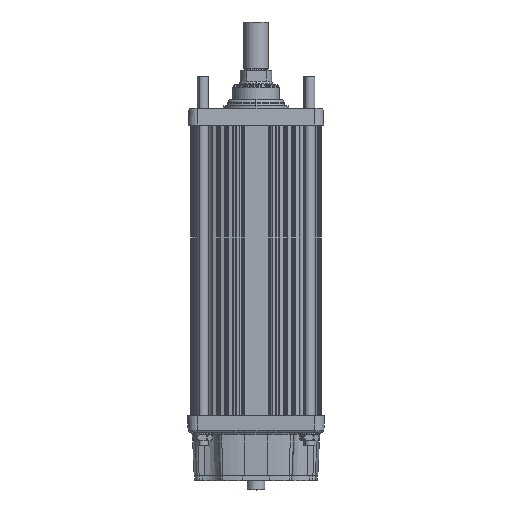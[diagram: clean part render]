
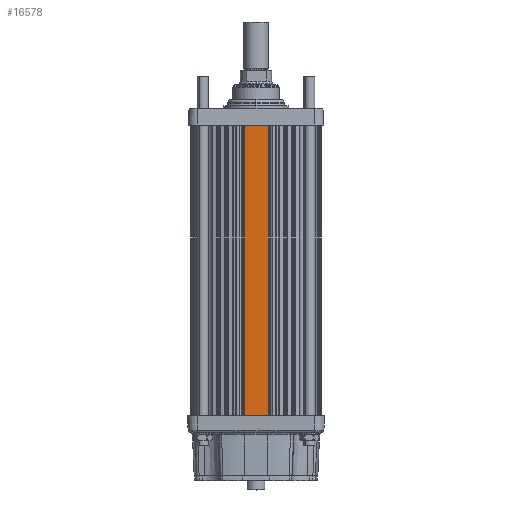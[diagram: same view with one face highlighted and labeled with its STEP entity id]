
A CAD part, front view. The second image highlights one B-rep face of the part: STEP entity #16578.
In plain terms, the highlighted planar face has unit normal (0, -1, 0) as drawn and (-1, 0, 0) by its records, which use the part's own axes.
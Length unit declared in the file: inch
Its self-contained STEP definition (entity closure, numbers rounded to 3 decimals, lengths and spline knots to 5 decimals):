
#16577 = EDGE_LOOP ( 'NONE', ( #16588, #16618, #16590, #16595 ) ) ;
#16578 = ADVANCED_FACE ( 'NONE', ( #33719 ), #33718, .T. ) ;
#16580 = EDGE_CURVE ( 'NONE', #16589, #16651, #33713, .T. ) ;
#16586 = EDGE_CURVE ( 'NONE', #16645, #16589, #33703, .T. ) ;
#16588 = ORIENTED_EDGE ( 'NONE', *, *, #16580, .F. ) ;
#16589 = VERTEX_POINT ( 'NONE', #33764 ) ;
#16590 = ORIENTED_EDGE ( 'NONE', *, *, #16591, .T. ) ;
#16591 = EDGE_CURVE ( 'NONE', #16645, #16653, #33763, .T. ) ;
#16595 = ORIENTED_EDGE ( 'NONE', *, *, #16655, .T. ) ;
#16618 = ORIENTED_EDGE ( 'NONE', *, *, #16586, .F. ) ;
#16645 = VERTEX_POINT ( 'NONE', #33842 ) ;
#16651 = VERTEX_POINT ( 'NONE', #33832 ) ;
#16653 = VERTEX_POINT ( 'NONE', #33831 ) ;
#16655 = EDGE_CURVE ( 'NONE', #16653, #16651, #33917, .T. ) ;
#33701 = VECTOR ( 'NONE', #33765, 39.37008 ) ;
#33702 = CARTESIAN_POINT ( 'NONE',  ( -3.365, 0.59323, -14.97 ) ) ;
#33703 = LINE ( 'NONE', #33702, #33701 ) ;
#33710 = DIRECTION ( 'NONE',  ( 0., -1., 0. ) ) ;
#33711 = VECTOR ( 'NONE', #33710, 39.37008 ) ;
#33712 = CARTESIAN_POINT ( 'NONE',  ( -3.365, -0.63049, 0. ) ) ;
#33713 = LINE ( 'NONE', #33712, #33711 ) ;
#33714 = DIRECTION ( 'NONE',  ( 0., -1., 0. ) ) ;
#33715 = DIRECTION ( 'NONE',  ( -1., 0., 0. ) ) ;
#33716 = CARTESIAN_POINT ( 'NONE',  ( -3.365, -0.63049, -14.97 ) ) ;
#33717 = AXIS2_PLACEMENT_3D ( 'NONE', #33716, #33715, #33714 ) ;
#33718 = PLANE ( 'NONE',  #33717 ) ;
#33719 = FACE_OUTER_BOUND ( 'NONE', #16577, .T. ) ;
#33760 = DIRECTION ( 'NONE',  ( 0., -1., 0. ) ) ;
#33761 = VECTOR ( 'NONE', #33760, 39.37008 ) ;
#33762 = CARTESIAN_POINT ( 'NONE',  ( -3.365, -0.63049, -14.97 ) ) ;
#33763 = LINE ( 'NONE', #33762, #33761 ) ;
#33764 = CARTESIAN_POINT ( 'NONE',  ( -3.365, 0.59323, 0. ) ) ;
#33765 = DIRECTION ( 'NONE',  ( 0., 0., 1. ) ) ;
#33831 = CARTESIAN_POINT ( 'NONE',  ( -3.365, -0.63049, -14.97 ) ) ;
#33832 = CARTESIAN_POINT ( 'NONE',  ( -3.365, -0.63049, 0. ) ) ;
#33842 = CARTESIAN_POINT ( 'NONE',  ( -3.365, 0.59323, -14.97 ) ) ;
#33913 = DIRECTION ( 'NONE',  ( 0., 0., 1. ) ) ;
#33914 = VECTOR ( 'NONE', #33913, 39.37008 ) ;
#33915 = CARTESIAN_POINT ( 'NONE',  ( -3.365, -0.63049, -14.97 ) ) ;
#33917 = LINE ( 'NONE', #33915, #33914 ) ;
